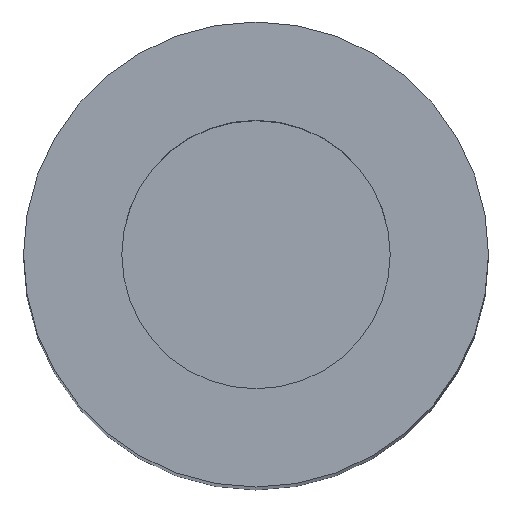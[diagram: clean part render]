
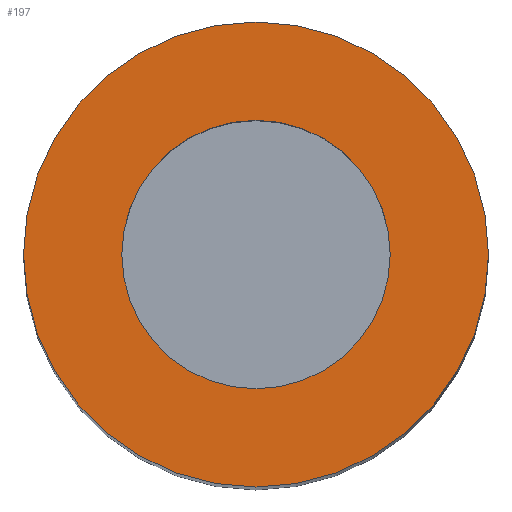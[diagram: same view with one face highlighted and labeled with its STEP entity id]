
A CAD part, top view. The second image highlights one B-rep face of the part: STEP entity #197.
In plain terms, the highlighted planar face has unit normal (0, 0, 1).
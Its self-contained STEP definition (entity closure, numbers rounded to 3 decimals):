
#4 = AXIS2_PLACEMENT_3D ( 'NONE', #5, #140, #271 ) ;
#5 = CARTESIAN_POINT ( 'NONE',  ( 0., 0., 20. ) ) ;
#33 = CIRCLE ( 'NONE', #397, 5.5 ) ;
#43 = AXIS2_PLACEMENT_3D ( 'NONE', #280, #153, #345 ) ;
#54 = CIRCLE ( 'NONE', #168, 3.175 ) ;
#61 = CIRCLE ( 'NONE', #4, 3.175 ) ;
#64 = VERTEX_POINT ( 'NONE', #258 ) ;
#105 = DIRECTION ( 'NONE',  ( 1., 0., 0. ) ) ;
#116 = EDGE_LOOP ( 'NONE', ( #329, #275 ) ) ;
#118 = FACE_BOUND ( 'NONE', #249, .T. ) ;
#132 = VERTEX_POINT ( 'NONE', #276 ) ;
#140 = DIRECTION ( 'NONE',  ( 0., 0., 1. ) ) ;
#153 = DIRECTION ( 'NONE',  ( 0., 0., 1. ) ) ;
#167 = EDGE_CURVE ( 'NONE', #250, #64, #61, .T. ) ;
#168 = AXIS2_PLACEMENT_3D ( 'NONE', #268, #267, #445 ) ;
#197 = ADVANCED_FACE ( 'NONE', ( #118, #248 ), #214, .T. ) ;
#201 = ORIENTED_EDGE ( 'NONE', *, *, #167, .F. ) ;
#209 = CARTESIAN_POINT ( 'NONE',  ( 0., 0., 20. ) ) ;
#214 = PLANE ( 'NONE',  #43 ) ;
#223 = VERTEX_POINT ( 'NONE', #286 ) ;
#237 = CARTESIAN_POINT ( 'NONE',  ( 0., 0., 20. ) ) ;
#248 = FACE_OUTER_BOUND ( 'NONE', #116, .T. ) ;
#249 = EDGE_LOOP ( 'NONE', ( #284, #201 ) ) ;
#250 = VERTEX_POINT ( 'NONE', #334 ) ;
#258 = CARTESIAN_POINT ( 'NONE',  ( 3.175, 0., 20. ) ) ;
#264 = DIRECTION ( 'NONE',  ( 0., 0., 1. ) ) ;
#267 = DIRECTION ( 'NONE',  ( 0., 0., 1. ) ) ;
#268 = CARTESIAN_POINT ( 'NONE',  ( 0., 0., 20. ) ) ;
#271 = DIRECTION ( 'NONE',  ( 1., 0., 0. ) ) ;
#275 = ORIENTED_EDGE ( 'NONE', *, *, #419, .T. ) ;
#276 = CARTESIAN_POINT ( 'NONE',  ( -5.5, 0., 20. ) ) ;
#280 = CARTESIAN_POINT ( 'NONE',  ( 0., 0., 20. ) ) ;
#284 = ORIENTED_EDGE ( 'NONE', *, *, #403, .F. ) ;
#286 = CARTESIAN_POINT ( 'NONE',  ( 5.5, 0., 20. ) ) ;
#327 = EDGE_CURVE ( 'NONE', #132, #223, #332, .T. ) ;
#329 = ORIENTED_EDGE ( 'NONE', *, *, #327, .T. ) ;
#332 = CIRCLE ( 'NONE', #415, 5.5 ) ;
#334 = CARTESIAN_POINT ( 'NONE',  ( -3.175, 0., 20. ) ) ;
#345 = DIRECTION ( 'NONE',  ( 1., 0., 0. ) ) ;
#371 = DIRECTION ( 'NONE',  ( 1., 0., 0. ) ) ;
#374 = DIRECTION ( 'NONE',  ( 0., 0., 1. ) ) ;
#397 = AXIS2_PLACEMENT_3D ( 'NONE', #237, #264, #371 ) ;
#403 = EDGE_CURVE ( 'NONE', #64, #250, #54, .T. ) ;
#415 = AXIS2_PLACEMENT_3D ( 'NONE', #209, #374, #105 ) ;
#419 = EDGE_CURVE ( 'NONE', #223, #132, #33, .T. ) ;
#445 = DIRECTION ( 'NONE',  ( 1., 0., 0. ) ) ;
